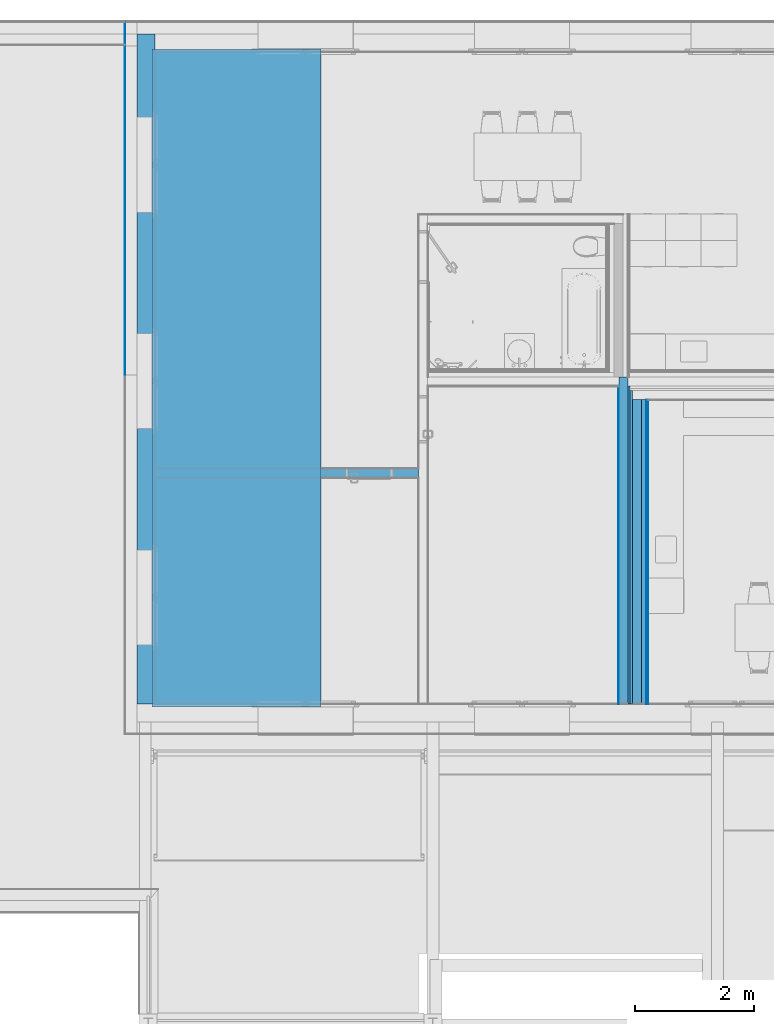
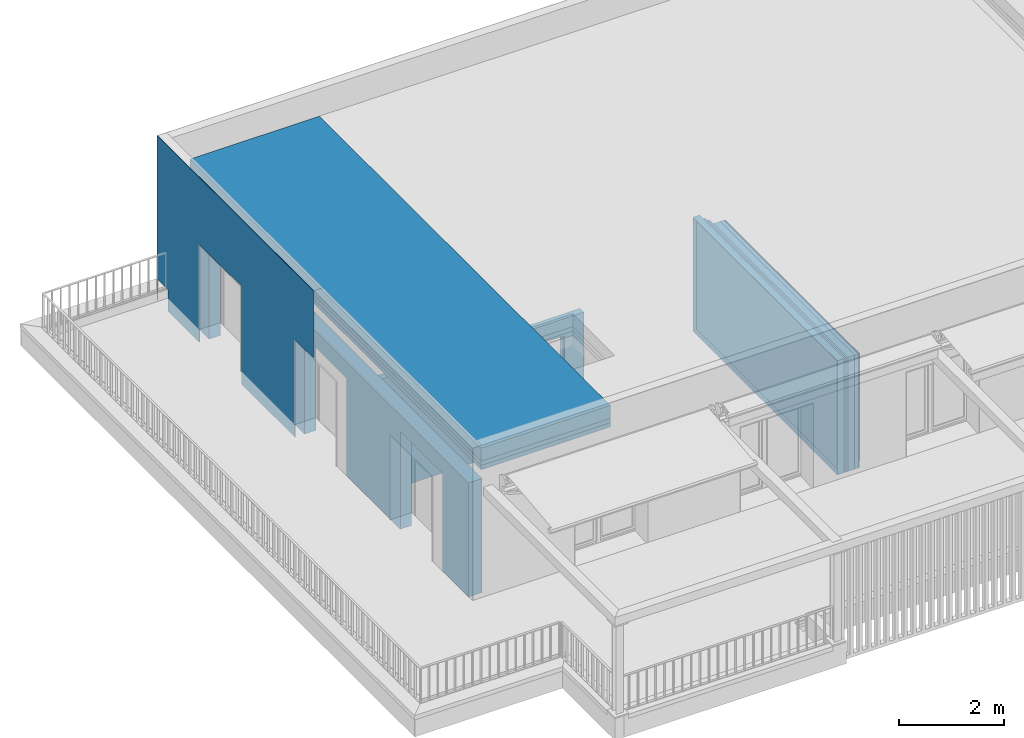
# One storey, part 7 of 36: 17 building element parts, 6 openings, 7 elements without a shape of their own.
"""IFC4 building model written with IfcOpenShell, lengths in millimetres."""

from ifc_helpers import new_model, entity, si_unit, converted_unit, derived_unit, direction, frame, origin_with_axes, place, context, subcontext, project, spatial, polygons, material, type_object, element, aggregate, save


model = new_model("IFC4")

# Units and contexts
model_context = context("Model", 3, precision=0.01, world=origin_with_axes(), true_north=direction((0.0, 1.0)))
body_context = subcontext(model_context, "Body", "Model", "MODEL_VIEW")
ifc_project = project(units=[si_unit("LENGTHUNIT", "METRE", prefix="MILLI"), si_unit("AREAUNIT", "SQUARE_METRE"), si_unit("VOLUMEUNIT", "CUBIC_METRE"), converted_unit("PLANEANGLEUNIT", "DEGREE", entity("IfcPlaneAngleMeasure", 0.0174532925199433), si_unit("PLANEANGLEUNIT", "RADIAN"), dimensions=[0, 0, 0, 0, 0, 0, 0]), converted_unit("TIMEUNIT", "Year", entity("IfcTimeMeasure", 31557600.0), si_unit("TIMEUNIT", "SECOND"), dimensions=[0, 0, 1, 0, 0, 0, 0]), si_unit("MASSUNIT", "GRAM", prefix="KILO"), si_unit("THERMODYNAMICTEMPERATUREUNIT", "DEGREE_CELSIUS"), si_unit("LUMINOUSINTENSITYUNIT", "LUMEN"), si_unit("ENERGYUNIT", "JOULE", prefix="MEGA"), derived_unit("THERMALCONDUCTANCEUNIT", [(si_unit("POWERUNIT", "WATT"), 1), (si_unit("LENGTHUNIT", "METRE"), -1), (si_unit("THERMODYNAMICTEMPERATUREUNIT", "KELVIN"), -1)]), derived_unit("SPECIFICHEATCAPACITYUNIT", [(si_unit("ENERGYUNIT", "JOULE"), 1), (si_unit("MASSUNIT", "GRAM", prefix="KILO"), -1), (si_unit("THERMODYNAMICTEMPERATUREUNIT", "KELVIN"), -1)]), derived_unit("MASSDENSITYUNIT", [(si_unit("MASSUNIT", "GRAM", prefix="KILO"), 1), (si_unit("VOLUMEUNIT", "CUBIC_METRE"), -1)])], contexts=[model_context])

# Site, building, storey
site_placement = place(None, origin_with_axes())
site = spatial("IfcSite", under=ifc_project, at=site_placement, Name="Gelände", CompositionType="ELEMENT")
building_placement = place(site_placement, origin_with_axes())
building = spatial("IfcBuilding", under=site, at=building_placement, Name="Gebäude", CompositionType="ELEMENT")
storey_placement = place(building_placement, frame((0.0, 0.0, 8700.0), z_axis=(0.0, 0.0, 1.0), x_axis=(1.0, 0.0, 0.0)))
storey = spatial("IfcBuildingStorey", under=building, at=storey_placement, Name="Attika", CompositionType="ELEMENT", Elevation=8700.0)

# Covering, building element parts
covering_type = type_object("IfcCoveringType", Name="Dacheindeckung Typ 02 - Flachdach 502", PredefinedType="NOTDEFINED")
covering_placement = place(storey_placement, frame((-3611.004181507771, 26407.59674077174, 2900.0), z_axis=(0.0, 0.0, 1.0), x_axis=(1.0, 0.0, 0.0)))
covering = element("IfcCovering", 1, at=covering_placement, inside=storey, type_object=covering_type, Name="Deckennr.-073", PredefinedType="NOTDEFINED")
ifc_material_1 = material(Name="Dachbegrünung extensiv")
building_element_part_1_placement = place(covering_placement, origin_with_axes())
building_element_part_1 = element("IfcBuildingElementPart", 2, at=building_element_part_1_placement, material=ifc_material_1, Name="Dachbegrünung extensiv", PredefinedType="NOTDEFINED", context=body_context, shape_type="Tessellation", body=[
    polygons([(2840.655967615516, 0.0, 201.9999999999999), (2840.655967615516, 0.0, 502.0000000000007), (0.0, 0.0, 502.0000000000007), (0.0, 0.0, 201.9999999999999), (2840.655967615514, 1392.816681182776, 201.9999999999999), (2840.655967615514, 1392.816681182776, 502.0000000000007), (2840.655967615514, 2992.816681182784, 502.0000000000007), (2840.655967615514, 11080.00054054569, 502.0000000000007), (0.0, 11080.00054054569, 502.0000000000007), (0.0, 11080.00054054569, 201.9999999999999), (2840.655967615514, 11080.00054054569, 201.9999999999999), (2840.655967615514, 2992.816681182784, 201.9999999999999)], [[[1, 2, 3, 4]], [[5, 6, 2, 1]], [[3, 2, 6, 7, 8, 9]], [[4, 3, 9, 10]], [[4, 10, 11, 12, 5, 1]], [[12, 7, 6, 5]], [[11, 8, 7, 12]], [[10, 9, 8, 11]]], closed=True),
])
ifc_material_2 = material(Name="Abdichtung Bitumen")
building_element_part_2_placement = place(covering_placement, origin_with_axes())
building_element_part_2 = element("IfcBuildingElementPart", 3, at=building_element_part_2_placement, material=ifc_material_2, Name="Abdichtung Bitumen", PredefinedType="NOTDEFINED", context=body_context, shape_type="Tessellation", body=[
    polygons([(2840.655967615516, 0.0, 201.0000000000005), (2840.655967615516, 0.0, 201.9999999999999), (0.0, 0.0, 201.9999999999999), (0.0, 0.0, 201.0000000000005), (2840.655967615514, 1392.816681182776, 201.0000000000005), (2840.655967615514, 1392.816681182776, 201.9999999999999), (2840.655967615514, 2992.816681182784, 201.9999999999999), (2840.655967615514, 11080.00054054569, 201.9999999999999), (0.0, 11080.00054054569, 201.9999999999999), (0.0, 11080.00054054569, 201.0000000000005), (2840.655967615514, 11080.00054054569, 201.0000000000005), (2840.655967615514, 2992.816681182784, 201.0000000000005)], [[[1, 2, 3, 4]], [[5, 6, 2, 1]], [[3, 2, 6, 7, 8, 9]], [[4, 3, 9, 10]], [[4, 10, 11, 12, 5, 1]], [[12, 7, 6, 5]], [[11, 8, 7, 12]], [[10, 9, 8, 11]]], closed=True),
])
ifc_material_3 = material(Name="Gefällsdämmung")
building_element_part_3_placement = place(covering_placement, origin_with_axes())
building_element_part_3 = element("IfcBuildingElementPart", 4, at=building_element_part_3_placement, material=ifc_material_3, Name="Gefällsdämmung", PredefinedType="NOTDEFINED", context=body_context, shape_type="Tessellation", body=[
    polygons([(2840.655967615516, 0.0, 1.000000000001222), (2840.655967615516, 0.0, 101.0000000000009), (0.0, 0.0, 101.0000000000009), (0.0, 0.0, 1.000000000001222), (2840.655967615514, 1392.816681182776, 1.000000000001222), (2840.655967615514, 1392.816681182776, 101.0000000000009), (2840.655967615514, 2992.816681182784, 101.0000000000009), (2840.655967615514, 11080.00054054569, 101.0000000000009), (0.0, 11080.00054054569, 101.0000000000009), (0.0, 11080.00054054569, 1.000000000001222), (2840.655967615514, 11080.00054054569, 1.000000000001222), (2840.655967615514, 2992.816681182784, 1.000000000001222)], [[[1, 2, 3, 4]], [[5, 6, 2, 1]], [[3, 2, 6, 7, 8, 9]], [[4, 3, 9, 10]], [[4, 10, 11, 12, 5, 1]], [[12, 7, 6, 5]], [[11, 8, 7, 12]], [[10, 9, 8, 11]]], closed=True),
])
ifc_material_4 = material(Name="Dampf- / Luftdichtigkeitsschicht")
building_element_part_4_placement = place(covering_placement, origin_with_axes())
building_element_part_4 = element("IfcBuildingElementPart", 5, at=building_element_part_4_placement, material=ifc_material_4, Name="Dampf- / Luftdichtigkeitsschicht", PredefinedType="NOTDEFINED", context=body_context, shape_type="Tessellation", body=[
    polygons([(0.0, 0.0, 0.0), (2840.655967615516, 0.0, 0.0), (2840.655967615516, 0.0, 1.000000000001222), (0.0, 0.0, 1.000000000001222), (0.0, 11080.00054054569, 0.0), (2840.655967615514, 11080.00054054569, 0.0), (2840.655967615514, 2992.816681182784, 0.0), (2840.655967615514, 1392.816681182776, 0.0), (2840.655967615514, 1392.816681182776, 1.000000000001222), (2840.655967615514, 2992.816681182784, 1.000000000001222), (2840.655967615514, 11080.00054054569, 1.000000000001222), (0.0, 11080.00054054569, 1.000000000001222)], [[[1, 2, 3, 4]], [[1, 5, 6, 7, 8, 2]], [[2, 8, 9, 3]], [[4, 3, 9, 10, 11, 12]], [[5, 1, 4, 12]], [[6, 5, 12, 11]], [[7, 6, 11, 10]], [[8, 7, 10, 9]]], closed=True),
])
ifc_material_5 = material(Name="Aufdachdämmung")
building_element_part_5_placement = place(covering_placement, origin_with_axes())
building_element_part_5 = element("IfcBuildingElementPart", 6, at=building_element_part_5_placement, material=ifc_material_5, Name="Aufdachdämmung", PredefinedType="NOTDEFINED", context=body_context, shape_type="Tessellation", body=[
    polygons([(2840.655967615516, 0.0, 101.0000000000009), (2840.655967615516, 0.0, 201.0000000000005), (0.0, 0.0, 201.0000000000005), (0.0, 0.0, 101.0000000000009), (2840.655967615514, 1392.816681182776, 101.0000000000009), (2840.655967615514, 1392.816681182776, 201.0000000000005), (2840.655967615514, 2992.816681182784, 201.0000000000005), (2840.655967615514, 11080.00054054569, 201.0000000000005), (0.0, 11080.00054054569, 201.0000000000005), (0.0, 11080.00054054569, 101.0000000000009), (2840.655967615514, 11080.00054054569, 101.0000000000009), (2840.655967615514, 2992.816681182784, 101.0000000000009)], [[[1, 2, 3, 4]], [[5, 6, 2, 1]], [[3, 2, 6, 7, 8, 9]], [[4, 3, 9, 10]], [[4, 10, 11, 12, 5, 1]], [[12, 7, 6, 5]], [[11, 8, 7, 12]], [[10, 9, 8, 11]]], closed=True),
])
aggregate(covering, [building_element_part_1, building_element_part_2, building_element_part_3, building_element_part_4, building_element_part_5])

# Curtain wall, openings, building element part
curtain_wall_type = type_object("IfcCurtainWallType", Name="Fassade Typ 01 - Kompaktfassade 210", PredefinedType="NOTDEFINED")
curtain_wall_placement = place(storey_placement, frame((-4071.004181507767, 37947.5972813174, 0.0), z_axis=(0.0, 0.0, 1.0), x_axis=(0.0, -1.0, 0.0)))
curtain_wall = element("IfcCurtainWall", 7, at=curtain_wall_placement, inside=storey, type_object=curtain_wall_type, Name="Wand-014", PredefinedType="NOTDEFINED")
opening_1_placement = place(curtain_wall_placement, frame((6053.999999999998, 0.0, 0.0), z_axis=(0.0, 0.0, 1.0), x_axis=(1.0, 0.0, 0.0)))
element("IfcOpeningElement", 8, at=opening_1_placement, cuts=curtain_wall, Name="Fenster-004", context=body_context, identifier="Reference", shape_type="Tessellation", body=[
    polygons([(-802.0000000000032, -1.000000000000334, 2271.999948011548), (-802.0000000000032, -1.000000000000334, 0.0), (801.9999999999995, -1.000000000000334, 0.0), (801.9999999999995, -1.000000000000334, 2271.999948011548), (-802.0000000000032, 211.0000000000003, 2271.999948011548), (-802.0000000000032, 211.0000000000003, 0.0), (801.9999999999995, 211.0000000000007, 0.0), (801.9999999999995, 211.0000000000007, 2271.999948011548)], [[[1, 2, 3, 4]], [[5, 6, 2, 1]], [[6, 7, 3, 2]], [[7, 8, 4, 3]], [[8, 5, 1, 4]], [[7, 6, 5, 8]]], closed=True),
])
opening_2_placement = place(curtain_wall_placement, frame((2411.999999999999, 0.0, 0.0), z_axis=(0.0, 0.0, 1.0), x_axis=(1.0, 0.0, 0.0)))
element("IfcOpeningElement", 9, at=opening_2_placement, cuts=curtain_wall, Name="Fenster-004", context=body_context, identifier="Reference", shape_type="Tessellation", body=[
    polygons([(-801.9999999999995, -1.000000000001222, 2271.999948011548), (-801.9999999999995, -1.000000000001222, 0.0), (801.9999999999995, -1.000000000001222, 0.0), (801.9999999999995, -1.000000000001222, 2271.999948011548), (-801.9999999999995, 210.9999999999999, 2271.999948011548), (-801.9999999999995, 210.9999999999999, 0.0), (801.9999999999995, 210.9999999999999, 0.0), (801.9999999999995, 210.9999999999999, 2271.999948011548)], [[[1, 2, 3, 4]], [[5, 6, 2, 1]], [[6, 7, 3, 2]], [[7, 8, 4, 3]], [[8, 5, 1, 4]], [[7, 6, 5, 8]]], closed=True),
])
ifc_material_6 = material(Name="Zementputz Aussen")
building_element_part_6_placement = place(curtain_wall_placement, origin_with_axes())
building_element_part_6 = element("IfcBuildingElementPart", 10, at=building_element_part_6_placement, material=ifc_material_6, Name="Zementputz Aussen", PredefinedType="NOTDEFINED", context=body_context, shape_type="Tessellation", body=[
    polygons([(5251.999999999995, 10.00000000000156, 2271.999948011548), (5251.999999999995, 9.999999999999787, 0.0), (3213.999999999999, 10.00000000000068, 0.0), (3213.999999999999, 10.00000000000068, 2271.999948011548), (1610.0, 10.00000000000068, 2271.999948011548), (1610.0, 10.00000000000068, 0.0), (410.0000000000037, 10.00000000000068, 0.0), (410.0000000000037, 10.00000000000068, 500.0), (210.0000000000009, 10.00000000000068, 500.0), (9.99999999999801, 10.00000000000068, 500.0), (9.99999999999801, 10.00000000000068, 0.0), (0.0, 10.00000000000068, 0.0), (-1.42475897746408e-06, 10.00000000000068, 3830.999999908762), (5950.000282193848, 10.00000000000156, 3830.999999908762), (5950.000282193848, 10.00000000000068, 2271.999948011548), (5251.999999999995, 0.0, 2271.999948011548), (5251.999999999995, 0.0, 0.0), (3213.999999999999, 0.0, 0.0), (3213.999999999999, 0.0, 2271.999948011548), (1610.0, 0.0, 2271.999948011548), (1610.0, 0.0, 0.0), (410.0000000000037, 0.0, 0.0), (410.0000000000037, 0.0, 500.0), (9.99999999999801, 0.0, 500.0), (9.99999999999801, 0.0, 0.0), (0.0, 0.0, 0.0), (-1.42475897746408e-06, 0.0, 3830.999999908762), (5950.000282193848, 0.0, 3830.999999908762), (5950.000282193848, 0.0, 2271.999948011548)], [[[1, 2, 3, 4, 5, 6, 7, 8, 9, 10, 11, 12, 13, 14, 15]], [[2, 1, 16, 17]], [[2, 17, 18, 3]], [[3, 18, 19, 4]], [[4, 19, 20, 5]], [[5, 20, 21, 6]], [[21, 22, 7, 6]], [[8, 7, 22, 23]], [[23, 24, 10, 9, 8]], [[11, 10, 24, 25]], [[11, 25, 26, 12]], [[27, 13, 12, 26]], [[14, 13, 27, 28]], [[29, 15, 14, 28]], [[1, 15, 29, 16]], [[16, 29, 28, 27, 26, 25, 24, 23, 22, 21, 20, 19, 18, 17]]], closed=True),
])
aggregate(curtain_wall, [building_element_part_6])

# Wall, building element parts
wall_type_1 = type_object("IfcWallType", Name="Trennwand Typ 03 - verputzt 200", PredefinedType="NOTDEFINED")
wall_1_placement = place(storey_placement, frame((4245.995818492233, 31962.59728131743, 0.0), z_axis=(0.0, 0.0, 1.0), x_axis=(0.0, -1.0, 0.0)))
wall_1 = element("IfcWall", 11, at=wall_1_placement, inside=storey, type_object=wall_type_1, Name="Wand-014", PredefinedType="NOTDEFINED")
ifc_material_7 = material(Name="Dämmung Innen")
building_element_part_7_placement = place(wall_1_placement, origin_with_axes())
building_element_part_7 = element("IfcBuildingElementPart", 12, at=building_element_part_7_placement, material=ifc_material_7, Name="Dämmung Innen", PredefinedType="NOTDEFINED", context=body_context, shape_type="Tessellation", body=[
    polygons([(5505.000540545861, 190.0000000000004, 0.0), (5505.000540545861, 150.0000000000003, 0.0), (149.9999999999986, 150.0000000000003, 0.0), (149.9999999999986, 190.0000000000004, 0.0), (5505.000540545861, 190.0000000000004, 2649.999948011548), (5505.000540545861, 150.0000000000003, 2649.999948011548), (149.9999999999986, 150.0000000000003, 2649.999948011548), (149.9999999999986, 190.0000000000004, 2649.999948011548)], [[[1, 2, 3, 4]], [[1, 5, 6, 2]], [[2, 6, 7, 3]], [[4, 3, 7, 8]], [[5, 1, 4, 8]], [[6, 5, 8, 7]]], closed=True),
])
ifc_material_8 = material(Name="MW, Backstein")
building_element_part_8_placement = place(wall_1_placement, origin_with_axes())
building_element_part_8 = element("IfcBuildingElementPart", 13, at=building_element_part_8_placement, material=ifc_material_8, Name="MW, Backstein", PredefinedType="NOTDEFINED", context=body_context, shape_type="Tessellation", body=[
    polygons([(0.0, 150.0000000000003, 0.0), (5505.000540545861, 150.0000000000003, 0.0), (5505.000540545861, 0.0, 0.0), (0.0, 0.0, 0.0), (0.0, 150.0000000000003, 2649.999948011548), (5505.000540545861, 150.0000000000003, 2649.999948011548), (5505.000540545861, 0.0, 2649.999948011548), (0.0, 0.0, 2649.999948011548)], [[[1, 2, 3, 4]], [[5, 6, 2, 1]], [[3, 2, 6, 7]], [[4, 3, 7, 8]], [[5, 1, 4, 8]], [[8, 7, 6, 5]]], closed=True),
])
ifc_material_9 = material(Name="Kalkzementputz Aussen")
building_element_part_9_placement = place(wall_1_placement, origin_with_axes())
building_element_part_9 = element("IfcBuildingElementPart", 14, at=building_element_part_9_placement, material=ifc_material_9, Name="Kalkzementputz Aussen", PredefinedType="NOTDEFINED", context=body_context, shape_type="Tessellation", body=[
    polygons([(5505.000540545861, 0.0, 150.0000000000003), (149.9999999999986, 0.0, 150.0000000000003), (149.9999999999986, 0.0, 2649.999948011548), (5505.000540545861, 0.0, 2649.999948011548), (149.9999999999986, -9.999999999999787, 150.0000000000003), (5505.000540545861, -9.999999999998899, 150.0000000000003), (149.9999999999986, -9.999999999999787, 2649.999948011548), (5505.000540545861, -9.999999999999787, 2649.999948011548)], [[[1, 2, 3, 4]], [[5, 2, 1, 6]], [[2, 5, 7, 3]], [[4, 3, 7, 8]], [[6, 1, 4, 8]], [[5, 6, 8, 7]]], closed=True),
])
aggregate(wall_1, [building_element_part_7, building_element_part_8, building_element_part_9])

wall_type_2 = type_object("IfcWallType", Name="Vorsatzschale 01 115", PredefinedType="NOTDEFINED")
wall_2_placement = place(storey_placement, frame((4625.995818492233, 31582.59728131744, 0.0), z_axis=(0.0, 0.0, 1.0), x_axis=(0.0, -1.0, 0.0)))
wall_2 = element("IfcWall", 15, at=wall_2_placement, inside=storey, type_object=wall_type_2, Name="Wand-014", PredefinedType="NOTDEFINED")
building_element_part_10_placement = place(wall_2_placement, origin_with_axes())
building_element_part_10 = element("IfcBuildingElementPart", 16, at=building_element_part_10_placement, material=ifc_material_9, Name="Kalkzementputz Aussen", PredefinedType="NOTDEFINED", context=body_context, shape_type="Tessellation", body=[
    polygons([(5125.000540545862, 115.0000000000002, 150.0000000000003), (9.99999999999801, 115.0000000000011, 150.0000000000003), (9.99999999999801, 115.0000000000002, 2649.999948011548), (5125.000540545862, 114.9999999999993, 2649.999948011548), (9.99999999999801, 105.0000000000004, 150.0000000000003), (5125.000540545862, 104.9999999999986, 150.0000000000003), (9.99999999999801, 105.0000000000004, 2649.999948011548), (5125.000540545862, 104.9999999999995, 2649.999948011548)], [[[1, 2, 3, 4]], [[5, 2, 1, 6]], [[2, 5, 7, 3]], [[4, 3, 7, 8]], [[6, 1, 4, 8]], [[5, 6, 8, 7]]], closed=True),
])
ifc_material_10 = material(Name="Gipskartonplatte GKP")
building_element_part_11_placement = place(wall_2_placement, origin_with_axes())
building_element_part_11 = element("IfcBuildingElementPart", 17, at=building_element_part_11_placement, material=ifc_material_10, Name="Gipskartonplatte GKP", PredefinedType="NOTDEFINED", context=body_context, shape_type="Tessellation", body=[
    polygons([(0.0, 105.0000000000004, 0.0), (0.0, 105.0000000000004, 2649.999948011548), (5125.000540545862, 104.9999999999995, 2649.999948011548), (5125.000540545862, 104.9999999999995, 0.0), (0.0, 92.50000000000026, 2649.999948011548), (0.0, 92.50000000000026, 0.0), (5125.000540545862, 92.49999999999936, 2649.999948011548), (5125.000540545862, 92.49999999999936, 0.0)], [[[1, 2, 3, 4]], [[5, 2, 1, 6]], [[2, 5, 7, 3]], [[4, 3, 7, 8]], [[6, 1, 4, 8]], [[5, 6, 8, 7]]], closed=True),
])
building_element_part_12_placement = place(wall_2_placement, origin_with_axes())
building_element_part_12 = element("IfcBuildingElementPart", 18, at=building_element_part_12_placement, material=ifc_material_10, Name="Gipskartonplatte GKP", PredefinedType="NOTDEFINED", context=body_context, shape_type="Tessellation", body=[
    polygons([(0.0, 92.50000000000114, 0.0), (0.0, 92.50000000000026, 2649.999948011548), (5125.000540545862, 92.49999999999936, 2649.999948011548), (5125.000540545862, 92.49999999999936, 0.0), (0.0, 80.00000000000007, 2649.999948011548), (0.0, 80.00000000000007, 0.0), (5125.000540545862, 79.99999999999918, 2649.999948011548), (5125.000540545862, 79.99999999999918, 0.0)], [[[1, 2, 3, 4]], [[5, 2, 1, 6]], [[2, 5, 7, 3]], [[4, 3, 7, 8]], [[6, 1, 4, 8]], [[5, 6, 8, 7]]], closed=True),
])
ifc_material_11 = material(Name="Ständer Konstruktion gedämmt")
building_element_part_13_placement = place(wall_2_placement, origin_with_axes())
building_element_part_13 = element("IfcBuildingElementPart", 19, at=building_element_part_13_placement, material=ifc_material_11, Name="Ständer Konstruktion gedämmt", PredefinedType="NOTDEFINED", context=body_context, shape_type="Tessellation", body=[
    polygons([(0.0, 80.00000000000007, 0.0), (0.0, 80.00000000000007, 2649.999948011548), (5125.000540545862, 79.99999999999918, 2649.999948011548), (5125.000540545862, 79.99999999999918, 0.0), (0.0, 0.0, 2649.999948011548), (0.0, 0.0, 0.0), (5125.000540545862, 0.0, 2649.999948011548), (5125.000540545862, 0.0, 0.0)], [[[1, 2, 3, 4]], [[5, 2, 1, 6]], [[2, 5, 7, 3]], [[4, 3, 7, 8]], [[6, 1, 4, 8]], [[5, 6, 8, 7]]], closed=True),
])
aggregate(wall_2, [building_element_part_10, building_element_part_11, building_element_part_12, building_element_part_13])

wall_type_3 = type_object("IfcWallType", Name="Trennwand Typ 02 - kein Putz 190", PredefinedType="NOTDEFINED")
wall_3_placement = place(storey_placement, frame((4625.995818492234, 31582.59728131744, 0.0), z_axis=(0.0, 0.0, 1.0), x_axis=(0.0, -1.0, 0.0)))
wall_3 = element("IfcWall", 20, at=wall_3_placement, inside=storey, type_object=wall_type_3, Name="Wand-015", PredefinedType="NOTDEFINED")
building_element_part_14_placement = place(wall_3_placement, origin_with_axes())
building_element_part_14 = element("IfcBuildingElementPart", 21, at=building_element_part_14_placement, material=ifc_material_8, Name="MW, Backstein", PredefinedType="NOTDEFINED", context=body_context, shape_type="Tessellation", body=[
    polygons([(0.0, -149.9999999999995, 2649.999948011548), (5125.000540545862, -149.9999999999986, 2649.999948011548), (5125.000540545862, 0.0, 2649.999948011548), (0.0, 0.0, 2649.999948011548), (0.0, -150.0000000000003, 0.0), (5125.000540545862, -149.9999999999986, 0.0), (5125.000540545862, 0.0, 0.0), (0.0, 0.0, 0.0)], [[[1, 2, 3, 4]], [[5, 6, 2, 1]], [[3, 2, 6, 7]], [[4, 3, 7, 8]], [[5, 1, 4, 8]], [[8, 7, 6, 5]]], closed=True),
])
building_element_part_15_placement = place(wall_3_placement, origin_with_axes())
building_element_part_15 = element("IfcBuildingElementPart", 22, at=building_element_part_15_placement, material=ifc_material_7, Name="Dämmung Innen", PredefinedType="NOTDEFINED", context=body_context, shape_type="Tessellation", body=[
    polygons([(5125.000540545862, -189.9999999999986, 2649.999948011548), (5125.000540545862, -149.9999999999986, 2649.999948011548), (-149.9999999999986, -149.9999999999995, 2649.999948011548), (-149.9999999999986, -189.9999999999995, 2649.999948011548), (5125.000540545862, -189.9999999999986, 0.0), (5125.000540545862, -149.9999999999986, 0.0), (-149.9999999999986, -150.0000000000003, 0.0), (-149.9999999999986, -190.0000000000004, 0.0)], [[[1, 2, 3, 4]], [[1, 5, 6, 2]], [[2, 6, 7, 3]], [[4, 3, 7, 8]], [[5, 1, 4, 8]], [[6, 5, 8, 7]]], closed=True),
])
aggregate(wall_3, [building_element_part_14, building_element_part_15])

# Wall, opening, building element part
wall_type_4 = type_object("IfcWallType", Name="Innenwand Typ 05 170", PredefinedType="NOTDEFINED")
wall_4_placement = place(storey_placement, frame((-3561.004181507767, 30427.59674077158, 0.0), z_axis=(0.0, 0.0, 1.0), x_axis=(1.0, 0.0, 0.0)))
wall_4 = element("IfcWall", 23, at=wall_4_placement, inside=storey, type_object=wall_type_4, Name="Wand-014", PredefinedType="NOTDEFINED")
opening_3_placement = place(wall_4_placement, frame((3602.0, 0.0, 150.0000000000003), z_axis=(0.0, 0.0, 1.0), x_axis=(1.0, 0.0, 0.0)))
element("IfcOpeningElement", 24, at=opening_3_placement, cuts=wall_4, Name="Tür-011", context=body_context, identifier="Reference", shape_type="Tessellation", body=[
    polygons([(-400.0, -171.0000000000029, 2100.0), (-400.0, -171.0000000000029, -150.0000000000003), (400.0, -171.0000000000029, -150.0000000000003), (400.0, -171.0000000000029, 2100.0), (-400.0, 1.000000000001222, 2100.0), (-400.0, 1.000000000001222, -150.0000000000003), (400.0, 1.000000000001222, -150.0000000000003), (400.0, 1.000000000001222, 2100.0)], [[[1, 2, 3, 4]], [[5, 6, 2, 1]], [[6, 7, 3, 2]], [[7, 8, 4, 3]], [[8, 5, 1, 4]], [[7, 6, 5, 8]]], closed=True),
])
building_element_part_16_placement = place(wall_4_placement, origin_with_axes())
building_element_part_16 = element("IfcBuildingElementPart", 25, at=building_element_part_16_placement, material=ifc_material_8, Name="MW, Backstein", PredefinedType="NOTDEFINED", context=body_context, shape_type="Tessellation", body=[
    polygons([(3202.0, -9.99999999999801, 2250.0), (3202.0, -9.99999999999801, 150.0000000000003), (3202.0, -9.99999999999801, 0.0), (0.0, -10.00000000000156, 0.0), (0.0, -10.00000000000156, 2649.999948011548), (4437.0, -9.99999999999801, 2649.999948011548), (4437.0, -9.99999999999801, 0.0), (4002.0, -9.99999999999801, 0.0), (4002.0, -9.99999999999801, 150.0000000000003), (4002.0, -9.99999999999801, 2250.0), (3202.0, -160.0000000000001, 2250.0), (3202.0, -160.0000000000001, 150.0000000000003), (3202.0, -160.0000000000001, 0.0), (0.0, -160.0000000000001, 0.0), (0.0, -160.0000000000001, 2649.999948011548), (4437.0, -160.0000000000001, 2649.999948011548), (4437.0, -160.0000000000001, 0.0), (4002.0, -160.0000000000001, 0.0), (4002.0, -160.0000000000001, 150.0000000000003), (4002.0, -160.0000000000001, 2250.0)], [[[1, 2, 3, 4, 5, 6, 7, 8, 9, 10]], [[2, 1, 11, 12]], [[2, 12, 13, 3]], [[13, 14, 4, 3]], [[15, 5, 4, 14]], [[6, 5, 15, 16]], [[16, 17, 7, 6]], [[8, 7, 17, 18]], [[19, 9, 8, 18]], [[10, 9, 19, 20]], [[1, 10, 20, 11]], [[20, 19, 18, 17, 16, 15, 14, 13, 12, 11]]], closed=True),
])
aggregate(wall_4, [building_element_part_16])

# Wall, openings, building element part
wall_type_5 = type_object("IfcWallType", Name="Aussenwand Typ 06 310", PredefinedType="NOTDEFINED")
wall_5_placement = place(storey_placement, frame((-3861.004181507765, 37737.5972813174, 0.0), z_axis=(0.0, 0.0, 1.0), x_axis=(0.0, -1.0, 0.0)))
wall_5 = element("IfcWall", 26, at=wall_5_placement, inside=storey, type_object=wall_type_5, Name="Wand-014", PredefinedType="NOTDEFINED")
opening_4_placement = place(wall_5_placement, frame((9485.999999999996, 0.0, 139.9999480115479), z_axis=(0.0, 0.0, 1.0), x_axis=(1.0, 0.0, 0.0)))
element("IfcOpeningElement", 27, at=opening_4_placement, cuts=wall_5, Name="Fenster-004", context=body_context, identifier="Reference", shape_type="Tessellation", body=[
    polygons([(-800.0000000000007, -1.000000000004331, 2132.0), (-800.0000000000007, 0.0, 2132.0), (800.0000000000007, 0.0, 2132.0), (800.0000000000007, -1.000000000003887, 2132.0), (801.9999999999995, -1.000000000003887, 2132.0), (801.9999999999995, 250.0000000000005, 2132.0), (-801.9999999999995, 250.0000000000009, 2132.0), (-801.9999999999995, -1.000000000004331, 2132.0), (-800.0000000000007, -1.000000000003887, 2130.000000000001), (-800.0000000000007, -149.9999999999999, 2130.000000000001), (-800.0000000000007, -149.9999999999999, 2420.0), (-800.0000000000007, 0.0, 2420.0), (800.0000000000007, 0.0, 2420.0), (800.0000000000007, -149.999999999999, 2420.0), (800.0000000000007, -149.999999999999, 2130.000000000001), (800.0000000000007, -1.000000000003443, 2130.000000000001), (-801.9999999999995, -1.000000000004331, -140.0000000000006), (801.9999999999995, -1.000000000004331, -140.0000000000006), (801.9999999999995, 250.0000000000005, -140.0000000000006), (-801.9999999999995, 250.0000000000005, -140.0000000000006), (902.000000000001, 250.0000000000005, -140.0000000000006), (902.000000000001, 250.0000000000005, 2231.999999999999), (-902.000000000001, 250.0000000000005, 2231.999999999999), (-902.000000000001, 250.0000000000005, -140.0000000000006), (-902.000000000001, 311.0000000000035, -140.0000000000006), (902.000000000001, 311.0000000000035, -140.0000000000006), (902.000000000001, 311.0000000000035, 2231.999999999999), (-902.000000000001, 311.0000000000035, 2231.999999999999)], [[[1, 2, 3, 4, 5, 6, 7, 8]], [[2, 1, 9, 10, 11, 12]], [[3, 2, 12, 13]], [[4, 3, 13, 14, 15, 16]], [[9, 1, 8, 17, 18, 5, 4, 16]], [[19, 6, 5, 18]], [[20, 7, 6, 19, 21, 22, 23, 24]], [[7, 20, 17, 8]], [[9, 16, 15, 10]], [[11, 10, 15, 14]], [[12, 11, 14, 13]], [[20, 19, 18, 17]], [[19, 20, 24, 25, 26, 21]], [[22, 21, 26, 27]], [[23, 22, 27, 28]], [[24, 23, 28, 25]], [[27, 26, 25, 28]]], closed=True),
])
opening_5_placement = place(wall_5_placement, frame((5843.999999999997, 0.0, 139.9999480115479), z_axis=(0.0, 0.0, 1.0), x_axis=(1.0, 0.0, 0.0)))
element("IfcOpeningElement", 28, at=opening_5_placement, cuts=wall_5, Name="Fenster-004", context=body_context, identifier="Reference", shape_type="Tessellation", body=[
    polygons([(-800.0000000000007, -1.000000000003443, 2132.0), (-800.0000000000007, 0.0, 2132.0), (800.0000000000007, 0.0, 2132.0), (800.0000000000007, -1.000000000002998, 2132.0), (801.9999999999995, -1.000000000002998, 2132.0), (801.9999999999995, 250.0000000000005, 2132.0), (-802.0000000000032, 250.0000000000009, 2132.0), (-802.0000000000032, -1.000000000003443, 2132.0), (-800.0000000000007, -1.000000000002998, 2130.000000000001), (-800.0000000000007, -149.999999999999, 2130.000000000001), (-800.0000000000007, -149.999999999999, 2420.0), (-800.0000000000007, 0.0, 2420.0), (800.0000000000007, 0.0, 2420.0), (800.0000000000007, -149.999999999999, 2420.0), (800.0000000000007, -149.999999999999, 2130.000000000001), (800.0000000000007, -1.000000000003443, 2130.000000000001), (-802.0000000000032, -1.000000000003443, -140.0000000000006), (801.9999999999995, -1.000000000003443, -140.0000000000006), (801.9999999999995, 250.0000000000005, -140.0000000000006), (-802.0000000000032, 250.0000000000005, -140.0000000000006), (902.000000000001, 250.0000000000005, -140.0000000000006), (902.000000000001, 250.0000000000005, 2231.999999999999), (-901.9999999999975, 250.0000000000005, 2231.999999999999), (-901.9999999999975, 250.0000000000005, -140.0000000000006), (-901.9999999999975, 311.0000000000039, -140.0000000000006), (902.000000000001, 311.0000000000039, -140.0000000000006), (902.000000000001, 311.0000000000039, 2231.999999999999), (-901.9999999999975, 311.0000000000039, 2231.999999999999)], [[[1, 2, 3, 4, 5, 6, 7, 8]], [[2, 1, 9, 10, 11, 12]], [[3, 2, 12, 13]], [[4, 3, 13, 14, 15, 16]], [[9, 1, 8, 17, 18, 5, 4, 16]], [[19, 6, 5, 18]], [[20, 7, 6, 19, 21, 22, 23, 24]], [[7, 20, 17, 8]], [[9, 16, 15, 10]], [[11, 10, 15, 14]], [[12, 11, 14, 13]], [[20, 19, 18, 17]], [[19, 20, 24, 25, 26, 21]], [[22, 21, 26, 27]], [[23, 22, 27, 28]], [[24, 23, 28, 25]], [[27, 26, 25, 28]]], closed=True),
])
opening_6_placement = place(wall_5_placement, frame((2202.000000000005, 0.0, 139.9999480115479), z_axis=(0.0, 0.0, 1.0), x_axis=(1.0, 0.0, 0.0)))
element("IfcOpeningElement", 29, at=opening_6_placement, cuts=wall_5, Name="Fenster-004", context=body_context, identifier="Reference", shape_type="Tessellation", body=[
    polygons([(-800.0000000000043, -1.000000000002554, 2132.0), (-800.0000000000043, 0.0, 2132.0), (799.9999999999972, 0.0, 2132.0), (799.9999999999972, -1.00000000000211, 2132.0), (801.9999999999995, -1.00000000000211, 2132.0), (801.9999999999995, 249.9999999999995, 2132.0), (-801.9999999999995, 249.9999999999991, 2132.0), (-801.9999999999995, -1.000000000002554, 2132.0), (-800.0000000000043, -1.000000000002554, 2130.000000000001), (-800.0000000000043, -150.0000000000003, 2130.000000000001), (-800.0000000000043, -150.0000000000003, 2420.0), (-800.0000000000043, 0.0, 2420.0), (799.9999999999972, 0.0, 2420.0), (799.9999999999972, -150.0000000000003, 2420.0), (799.9999999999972, -150.0000000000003, 2130.000000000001), (799.9999999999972, -1.00000000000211, 2130.000000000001), (-801.9999999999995, -1.000000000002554, -140.0000000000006), (801.9999999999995, -1.000000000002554, -140.0000000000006), (801.9999999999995, 249.9999999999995, -140.0000000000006), (-801.9999999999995, 249.9999999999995, -140.0000000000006), (902.000000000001, 249.9999999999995, -140.0000000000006), (902.000000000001, 249.9999999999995, 2231.999999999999), (-902.000000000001, 249.9999999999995, 2231.999999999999), (-902.000000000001, 249.9999999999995, -140.0000000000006), (-902.000000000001, 311.0000000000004, -140.0000000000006), (902.000000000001, 311.0000000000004, -140.0000000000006), (902.000000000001, 311.0000000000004, 2231.999999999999), (-902.000000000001, 311.0000000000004, 2231.999999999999)], [[[1, 2, 3, 4, 5, 6, 7, 8]], [[2, 1, 9, 10, 11, 12]], [[3, 2, 12, 13]], [[4, 3, 13, 14, 15, 16]], [[9, 1, 8, 17, 18, 5, 4, 16]], [[19, 6, 5, 18]], [[20, 7, 6, 19, 21, 22, 23, 24]], [[7, 20, 17, 8]], [[9, 16, 15, 10]], [[11, 10, 15, 14]], [[12, 11, 14, 13]], [[20, 19, 18, 17]], [[19, 20, 24, 25, 26, 21]], [[22, 21, 26, 27]], [[23, 22, 27, 28]], [[24, 23, 28, 25]], [[27, 26, 25, 28]]], closed=True),
])
ifc_material_12 = material(Name="Beton bewehrt")
building_element_part_17_placement = place(wall_5_placement, origin_with_axes())
building_element_part_17 = element("IfcBuildingElementPart", 30, at=building_element_part_17_placement, material=ifc_material_12, Name="Beton bewehrt", PredefinedType="NOTDEFINED", context=body_context, shape_type="Tessellation", body=[
    polygons([(3104.000000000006, 299.9999999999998, -5.198845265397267e-05), (3104.000000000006, 300.0000000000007, 2371.999948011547), (1300.000000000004, 300.0000000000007, 2371.999948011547), (1300.000000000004, 299.9999999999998, -5.198845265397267e-05), (0.0, 299.9999999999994, 0.0), (0.0, 300.0000000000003, 2650.0), (11280.00054054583, 300.0000000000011, 2650.0), (11280.00054054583, 300.0000000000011, 0.0), (10388.0, 300.0000000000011, -5.198845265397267e-05), (10388.0, 300.0000000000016, 2371.999948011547), (8583.999999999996, 300.0000000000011, 2371.999948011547), (8583.999999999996, 300.0000000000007, -5.198845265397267e-05), (6745.999999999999, 300.0000000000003, -5.198845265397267e-05), (6745.999999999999, 300.0000000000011, 2371.999948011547), (4942.0, 300.0000000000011, 2371.999948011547), (4942.0, 300.0000000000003, -5.198845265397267e-05), (3104.000000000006, 250.0, -5.198845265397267e-05), (3104.000000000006, 250.0, 2371.999948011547), (1300.000000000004, 250.0, 2371.999948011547), (1300.000000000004, 250.0, -5.198845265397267e-05), (1400.000000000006, 250.0, -5.198845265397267e-05), (1400.000000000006, 0.0, -5.198845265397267e-05), (0.0, 0.0, 0.0), (0.0, 0.0, 2650.0), (11280.00054054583, 0.0, 2650.0), (11280.00054054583, 0.0, 0.0), (10388.0, 250.0000000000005, -5.198845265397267e-05), (10288.0, 0.0, -5.198845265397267e-05), (10288.0, 250.0000000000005, -5.198845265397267e-05), (10388.0, 250.0000000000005, 2371.999948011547), (8583.999999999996, 250.0000000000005, 2371.999948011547), (8583.999999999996, 250.0000000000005, -5.198845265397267e-05), (8683.999999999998, 250.0000000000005, -5.198845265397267e-05), (8683.999999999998, 0.0, -5.198845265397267e-05), (6645.999999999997, 0.0, -5.198845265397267e-05), (6645.999999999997, 250.0000000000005, -5.198845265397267e-05), (6745.999999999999, 250.0000000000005, -5.198845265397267e-05), (6745.999999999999, 250.0000000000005, 2371.999948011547), (4942.0, 250.0000000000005, 2371.999948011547), (4942.0, 250.0000000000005, -5.198845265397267e-05), (5041.999999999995, 250.0000000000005, -5.198845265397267e-05), (5041.999999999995, 0.0, -5.198845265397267e-05), (3004.000000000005, 0.0, -5.198845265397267e-05), (3004.000000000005, 250.0, -5.198845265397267e-05), (3004.000000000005, 250.0, 2271.999948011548), (1400.000000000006, 249.9999999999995, 2271.999948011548), (1400.000000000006, 0.0, 2271.999948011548), (3004.000000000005, 0.0, 2271.999948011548), (5041.999999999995, 0.0, 2271.999948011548), (6645.999999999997, 0.0, 2271.999948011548), (8683.999999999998, 0.0, 2271.999948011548), (10288.0, 0.0, 2271.999948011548), (10288.0, 250.0000000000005, 2271.999948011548), (8683.999999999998, 250.0000000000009, 2271.999948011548), (6645.999999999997, 250.0000000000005, 2271.999948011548), (5041.999999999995, 250.0000000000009, 2271.999948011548)], [[[1, 2, 3, 4, 5, 6, 7, 8, 9, 10, 11, 12, 13, 14, 15, 16]], [[2, 1, 17, 18]], [[3, 2, 18, 19]], [[4, 3, 19, 20]], [[20, 21, 22, 23, 5, 4]], [[23, 24, 6, 5]], [[6, 24, 25, 7]], [[7, 25, 26, 8]], [[27, 9, 8, 26, 28, 29]], [[10, 9, 27, 30]], [[11, 10, 30, 31]], [[12, 11, 31, 32]], [[12, 32, 33, 34, 35, 36, 37, 13]], [[37, 38, 14, 13]], [[38, 39, 15, 14]], [[39, 40, 16, 15]], [[17, 1, 16, 40, 41, 42, 43, 44]], [[21, 20, 19, 18, 17, 44, 45, 46]], [[21, 46, 47, 22]], [[23, 22, 47, 48, 43, 42, 49, 50, 35, 34, 51, 52, 28, 26, 25, 24]], [[53, 29, 28, 52]], [[27, 29, 53, 54, 33, 32, 31, 30]], [[33, 54, 51, 34]], [[35, 50, 55, 36]], [[39, 38, 37, 36, 55, 56, 41, 40]], [[49, 42, 41, 56]], [[45, 44, 43, 48]], [[46, 45, 48, 47]], [[50, 49, 56, 55]], [[54, 53, 52, 51]]], closed=True),
])
aggregate(wall_5, [building_element_part_17])

save(model, "model.ifc")
